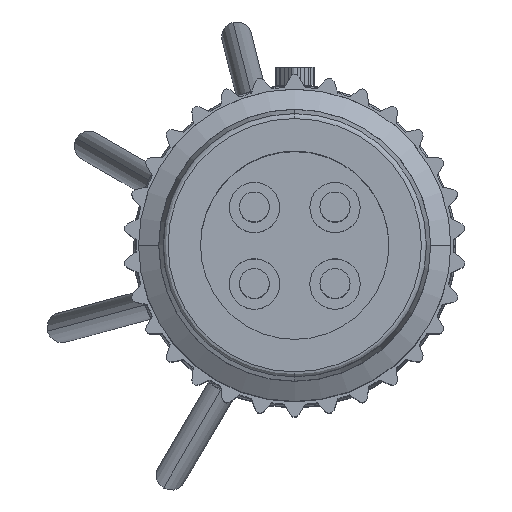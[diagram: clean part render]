
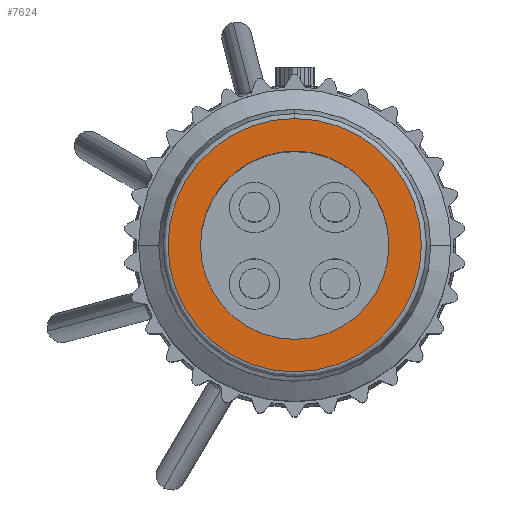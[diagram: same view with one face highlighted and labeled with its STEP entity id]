
A CAD part, top view. The second image highlights one B-rep face of the part: STEP entity #7624.
In plain terms, the highlighted planar face has unit normal (0, 0, 1).
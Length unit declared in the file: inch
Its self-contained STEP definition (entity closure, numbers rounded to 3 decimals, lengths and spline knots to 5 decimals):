
#1537=CARTESIAN_POINT('',(0.,0.,0.));
#1538=DIRECTION('',(0.,0.,1.));
#1539=DIRECTION('',(0.,1.,0.));
#1540=AXIS2_PLACEMENT_3D('',#1537,#1538,#1539);
#1542=CARTESIAN_POINT('',(0.,0.,0.));
#1543=DIRECTION('',(0.,0.,1.));
#1544=DIRECTION('',(0.,-1.,0.));
#1545=AXIS2_PLACEMENT_3D('',#1542,#1543,#1544);
#1547=CARTESIAN_POINT('',(0.,0.,0.));
#1548=DIRECTION('',(0.,0.,1.));
#1549=DIRECTION('',(0.,1.,0.));
#1550=AXIS2_PLACEMENT_3D('',#1547,#1548,#1549);
#1552=CARTESIAN_POINT('',(0.,0.,0.));
#1553=DIRECTION('',(0.,0.,1.));
#1554=DIRECTION('',(0.,-1.,0.));
#1555=AXIS2_PLACEMENT_3D('',#1552,#1553,#1554);
#5540=CARTESIAN_POINT('',(0.,0.0935,0.));
#5541=CARTESIAN_POINT('',(0.,-0.0935,0.));
#5542=VERTEX_POINT('',#5540);
#5543=VERTEX_POINT('',#5541);
#5818=CARTESIAN_POINT('',(0.,0.12576,0.));
#5819=CARTESIAN_POINT('',(0.,-0.12576,0.));
#5820=VERTEX_POINT('',#5818);
#5821=VERTEX_POINT('',#5819);
#7608=CARTESIAN_POINT('',(0.,0.,0.));
#7609=DIRECTION('',(0.,0.,1.));
#7610=DIRECTION('',(0.,1.,0.));
#7611=AXIS2_PLACEMENT_3D('',#7608,#7609,#7610);
#7612=PLANE('',#7611);
#7613=ORIENTED_EDGE('',*,*,#7598,.F.);
#7615=ORIENTED_EDGE('',*,*,#7614,.F.);
#7616=EDGE_LOOP('',(#7613,#7615));
#7617=FACE_OUTER_BOUND('',#7616,.F.);
#7619=ORIENTED_EDGE('',*,*,#7618,.T.);
#7621=ORIENTED_EDGE('',*,*,#7620,.T.);
#7622=EDGE_LOOP('',(#7619,#7621));
#7623=FACE_BOUND('',#7622,.F.);
#7624=ADVANCED_FACE('',(#7617,#7623),#7612,.T.);
#1541=CIRCLE('',#1540,0.0935);
#1546=CIRCLE('',#1545,0.0935);
#1551=CIRCLE('',#1550,0.12576);
#1556=CIRCLE('',#1555,0.12576);
#7598=EDGE_CURVE('',#5820,#5821,#1551,.T.);
#7614=EDGE_CURVE('',#5821,#5820,#1556,.T.);
#7618=EDGE_CURVE('',#5542,#5543,#1541,.T.);
#7620=EDGE_CURVE('',#5543,#5542,#1546,.T.);
